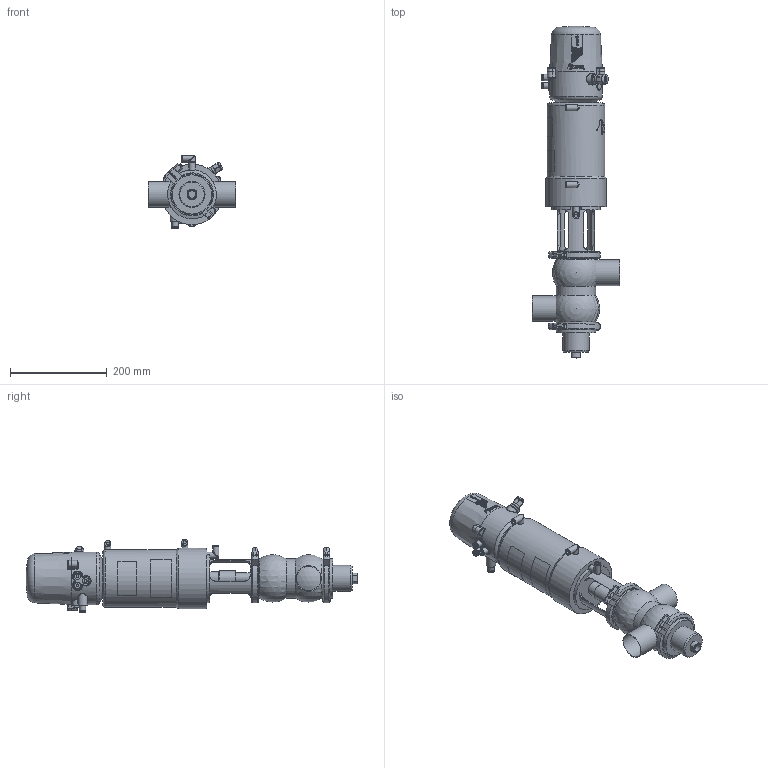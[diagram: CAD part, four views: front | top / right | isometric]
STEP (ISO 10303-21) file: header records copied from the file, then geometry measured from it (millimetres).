
FILE_DESCRIPTION (( 'STEP AP214' ), '1' );
FILE_NAME ('INNOVA P DC-180 W DIN 050 & C-TOP S_10.250.16.0019.STEP', '2024-08-08T12:20:55', ( '' ), ( '' ), 'SwSTEP 2.0', 'SolidWorks 2023', '' );
FILE_SCHEMA (( 'AUTOMOTIVE_DESIGN' ));
Length unit declared in the file: millimetre
Products named in the file (7): 10.250.15.0003_DN 050; 10.250.15.0002_Type P T1; 10.426.15.0001_C-TOP S - 3 EV; 10.251.15.0011_DIN 050; 10.240.15.0001_DN 050; INNOVA P DC-180 W DIN 050 & C-TOP S_10.250.16.0019; 10.250.15.0001_DIN 050
Assembly tree (7 placements, depth 2):
  INNOVA P DC-180 W DIN 050 & C-TOP S_10.250.16.0019
    10.250.15.0001_DIN 050
    10.250.15.0002_Type P T1
    10.426.15.0001_C-TOP S - 3 EV
    10.251.15.0011_DIN 050
    10.240.15.0001_DN 050  x2
    10.250.15.0003_DN 050
Bounding box: 180 x 686 x 152 mm (x, y, z)
Volume: 5269451.4 mm3; surface area: 393152 mm2
Topology: 7 solids, 7 shells, 1203 faces, 2896 edges, 1923 vertices
Faces by surface type: plane 413, cylinder 383, cone 203, bspline 163, torus 33, sphere 8
Full cylindrical faces by diameter (mm): 0.371 x17, 0.512 x16, 0.658 x16, 0.795 x16, 0.94 x15, 1.098 x15, 1.241 x13, 1.382 x13, 1.523 x11, 1.669 x10, 2.201 x1, 4.2 x2, 5 x1, 5.5 x2, 6 x4, 6.15 x3, 8 x5, 10 x1, 10.5 x3, 11 x4, 12.5 x9, 13 x6, 13.5 x2, 16 x1, 17 x3, 20 x2, 22 x2, 23 x1, 28 x1, 31.5 x1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
Entity records: 59019 total; most frequent: CARTESIAN_POINT 27689, ORIENTED_EDGE 4612, DIRECTION 3753, EDGE_CURVE 2306, VERTEX_POINT 1642, EDGE_LOOP 1620, AXIS2_PLACEMENT_3D 1543, FACE_OUTER_BOUND 1370
